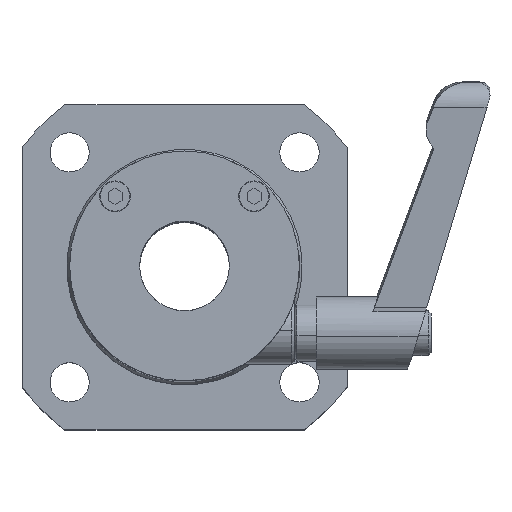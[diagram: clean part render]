
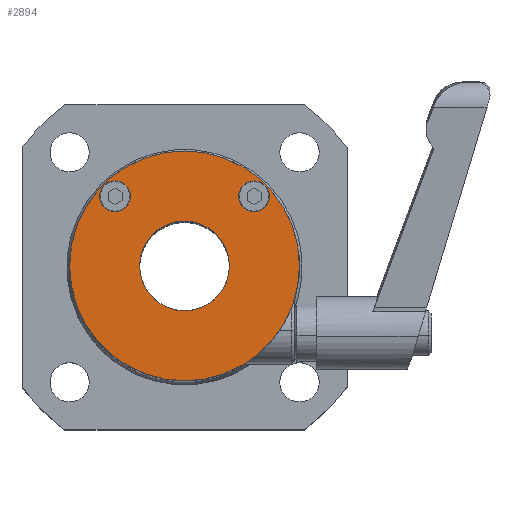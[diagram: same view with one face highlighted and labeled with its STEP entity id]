
A CAD part, top view. The second image highlights one B-rep face of the part: STEP entity #2894.
In plain terms, the highlighted planar face has unit normal (0, 0, 1).
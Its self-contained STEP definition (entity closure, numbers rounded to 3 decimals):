
#156 = EDGE_LOOP ( 'NONE', ( #7859, #854 ) ) ;
#256 = AXIS2_PLACEMENT_3D ( 'NONE', #8763, #5362, #1631 ) ;
#331 = CARTESIAN_POINT ( 'NONE',  ( 17.116, -0.472, 48.5 ) ) ;
#391 = DIRECTION ( 'NONE',  ( 1., 0., 0. ) ) ;
#627 = FACE_BOUND ( 'NONE', #156, .T. ) ;
#776 = ORIENTED_EDGE ( 'NONE', *, *, #9497, .T. ) ;
#785 = DIRECTION ( 'NONE',  ( 1., 0., 0. ) ) ;
#854 = ORIENTED_EDGE ( 'NONE', *, *, #5981, .F. ) ;
#872 = CARTESIAN_POINT ( 'NONE',  ( -23.884, -0.472, 48.5 ) ) ;
#1066 = CIRCLE ( 'NONE', #10052, 20.5 ) ;
#1071 = CIRCLE ( 'NONE', #2777, 2.75 ) ;
#1278 = AXIS2_PLACEMENT_3D ( 'NONE', #7760, #2182, #9393 ) ;
#1282 = AXIS2_PLACEMENT_3D ( 'NONE', #10320, #3307, #6448 ) ;
#1631 = DIRECTION ( 'NONE',  ( 1., 0., 0. ) ) ;
#1948 = DIRECTION ( 'NONE',  ( 0., 0., 1. ) ) ;
#1953 = CARTESIAN_POINT ( 'NONE',  ( -18.534, 11.928, 48.5 ) ) ;
#1980 = CARTESIAN_POINT ( 'NONE',  ( -3.384, -0.472, 48.5 ) ) ;
#2182 = DIRECTION ( 'NONE',  ( 0., 0., 1. ) ) ;
#2305 = AXIS2_PLACEMENT_3D ( 'NONE', #5779, #5625, #9737 ) ;
#2338 = EDGE_CURVE ( 'NONE', #6359, #9812, #2384, .T. ) ;
#2384 = CIRCLE ( 'NONE', #4192, 20.5 ) ;
#2386 = AXIS2_PLACEMENT_3D ( 'NONE', #6651, #6453, #3504 ) ;
#2616 = CARTESIAN_POINT ( 'NONE',  ( 9.016, 11.928, 48.5 ) ) ;
#2777 = AXIS2_PLACEMENT_3D ( 'NONE', #2616, #8148, #5130 ) ;
#2894 = ADVANCED_FACE ( 'NONE', ( #10011, #627, #3816, #6974 ), #10163, .T. ) ;
#2898 = EDGE_CURVE ( 'NONE', #2978, #7663, #7587, .T. ) ;
#2978 = VERTEX_POINT ( 'NONE', #5876 ) ;
#3108 = VERTEX_POINT ( 'NONE', #6369 ) ;
#3207 = EDGE_CURVE ( 'NONE', #7663, #2978, #1071, .T. ) ;
#3307 = DIRECTION ( 'NONE',  ( 0., 0., 1. ) ) ;
#3504 = DIRECTION ( 'NONE',  ( 1., 0., 0. ) ) ;
#3816 = FACE_OUTER_BOUND ( 'NONE', #5841, .T. ) ;
#4192 = AXIS2_PLACEMENT_3D ( 'NONE', #9958, #1948, #5121 ) ;
#4238 = CARTESIAN_POINT ( 'NONE',  ( 6.266, 11.928, 48.5 ) ) ;
#5121 = DIRECTION ( 'NONE',  ( 1., 0., 0. ) ) ;
#5130 = DIRECTION ( 'NONE',  ( 1., 0., 0. ) ) ;
#5362 = DIRECTION ( 'NONE',  ( 0., 0., 1. ) ) ;
#5625 = DIRECTION ( 'NONE',  ( 0., 0., 1. ) ) ;
#5670 = ORIENTED_EDGE ( 'NONE', *, *, #2338, .T. ) ;
#5779 = CARTESIAN_POINT ( 'NONE',  ( -3.384, -0.472, 48.5 ) ) ;
#5841 = EDGE_LOOP ( 'NONE', ( #5670, #776 ) ) ;
#5876 = CARTESIAN_POINT ( 'NONE',  ( 11.766, 11.928, 48.5 ) ) ;
#5946 = VERTEX_POINT ( 'NONE', #6186 ) ;
#5981 = EDGE_CURVE ( 'NONE', #3108, #6795, #6894, .T. ) ;
#6006 = ORIENTED_EDGE ( 'NONE', *, *, #2898, .F. ) ;
#6186 = CARTESIAN_POINT ( 'NONE',  ( -11.384, -0.472, 48.5 ) ) ;
#6255 = CIRCLE ( 'NONE', #1278, 8. ) ;
#6359 = VERTEX_POINT ( 'NONE', #872 ) ;
#6369 = CARTESIAN_POINT ( 'NONE',  ( -13.034, 11.928, 48.5 ) ) ;
#6448 = DIRECTION ( 'NONE',  ( 1., 0., 0. ) ) ;
#6453 = DIRECTION ( 'NONE',  ( 0., 0., 1. ) ) ;
#6469 = EDGE_CURVE ( 'NONE', #5946, #9469, #7092, .T. ) ;
#6511 = ORIENTED_EDGE ( 'NONE', *, *, #6469, .F. ) ;
#6651 = CARTESIAN_POINT ( 'NONE',  ( -15.784, 11.928, 48.5 ) ) ;
#6734 = EDGE_LOOP ( 'NONE', ( #7953, #6006 ) ) ;
#6795 = VERTEX_POINT ( 'NONE', #1953 ) ;
#6894 = CIRCLE ( 'NONE', #256, 2.75 ) ;
#6974 = FACE_BOUND ( 'NONE', #8519, .T. ) ;
#7092 = CIRCLE ( 'NONE', #2305, 8. ) ;
#7137 = DIRECTION ( 'NONE',  ( 0., 0., 1. ) ) ;
#7490 = EDGE_CURVE ( 'NONE', #9469, #5946, #6255, .T. ) ;
#7587 = CIRCLE ( 'NONE', #1282, 2.75 ) ;
#7663 = VERTEX_POINT ( 'NONE', #4238 ) ;
#7760 = CARTESIAN_POINT ( 'NONE',  ( -3.384, -0.472, 48.5 ) ) ;
#7859 = ORIENTED_EDGE ( 'NONE', *, *, #10129, .F. ) ;
#7953 = ORIENTED_EDGE ( 'NONE', *, *, #3207, .F. ) ;
#8148 = DIRECTION ( 'NONE',  ( 0., 0., 1. ) ) ;
#8519 = EDGE_LOOP ( 'NONE', ( #6511, #9160 ) ) ;
#8763 = CARTESIAN_POINT ( 'NONE',  ( -15.784, 11.928, 48.5 ) ) ;
#9112 = DIRECTION ( 'NONE',  ( 0., 0., 1. ) ) ;
#9154 = CIRCLE ( 'NONE', #2386, 2.75 ) ;
#9160 = ORIENTED_EDGE ( 'NONE', *, *, #7490, .F. ) ;
#9282 = AXIS2_PLACEMENT_3D ( 'NONE', #10266, #7137, #785 ) ;
#9393 = DIRECTION ( 'NONE',  ( 1., 0., 0. ) ) ;
#9469 = VERTEX_POINT ( 'NONE', #10307 ) ;
#9497 = EDGE_CURVE ( 'NONE', #9812, #6359, #1066, .T. ) ;
#9737 = DIRECTION ( 'NONE',  ( 1., 0., 0. ) ) ;
#9812 = VERTEX_POINT ( 'NONE', #331 ) ;
#9958 = CARTESIAN_POINT ( 'NONE',  ( -3.384, -0.472, 48.5 ) ) ;
#10011 = FACE_BOUND ( 'NONE', #6734, .T. ) ;
#10052 = AXIS2_PLACEMENT_3D ( 'NONE', #1980, #9112, #391 ) ;
#10129 = EDGE_CURVE ( 'NONE', #6795, #3108, #9154, .T. ) ;
#10163 = PLANE ( 'NONE',  #9282 ) ;
#10266 = CARTESIAN_POINT ( 'NONE',  ( -3.384, -0.472, 48.5 ) ) ;
#10307 = CARTESIAN_POINT ( 'NONE',  ( 4.616, -0.472, 48.5 ) ) ;
#10320 = CARTESIAN_POINT ( 'NONE',  ( 9.016, 11.928, 48.5 ) ) ;
